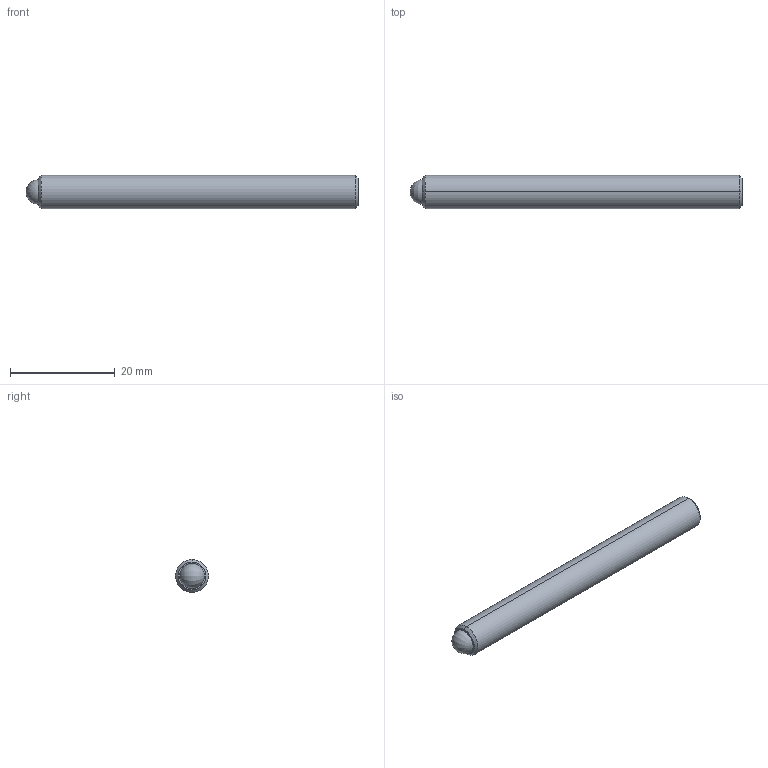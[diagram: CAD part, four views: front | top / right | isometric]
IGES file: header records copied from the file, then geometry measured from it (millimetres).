
Start section: SolidWorks IGES file using analytic representation for surfaces
Global section: file name: C:\Users\workpc\Desktop\KMA Solidworks\TS250-80 Series\TS250-80 SLDW\TS250-80-2500-AA.IGS; native system: SolidWorks 2013; preprocessor: SolidWorks 2013; author: workpc; date: 130211.171345; units: inch
Bounding box: 63.49 x 6.35 x 6.35 mm (x, y, z)
Surface area: 1386.7 mm2 (no closed solid volume)
Topology: 0 solids, 0 shells, 20 faces, 204 edges, 200 vertices
Faces by surface type: revolution 10, bspline 10
